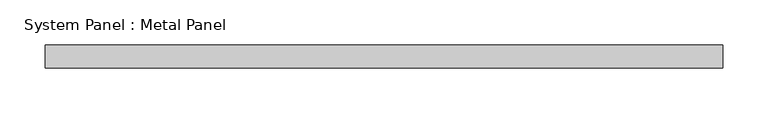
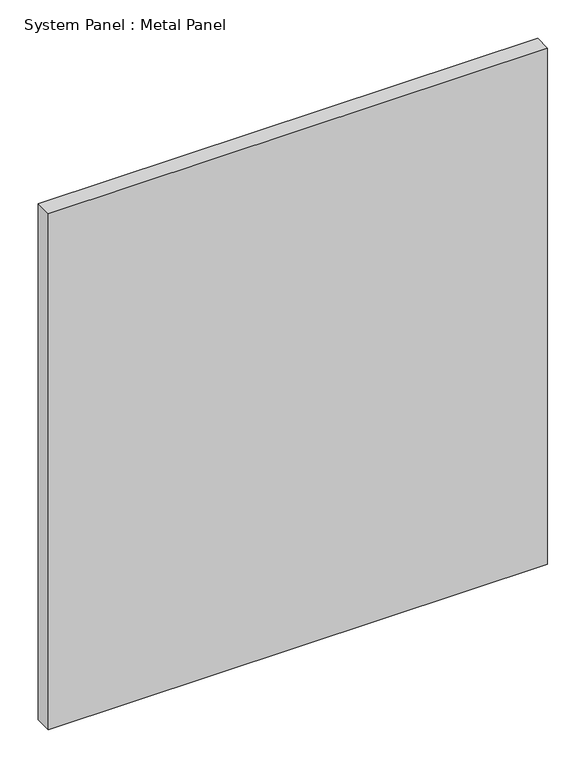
"""IFC4 building model written with IfcOpenShell, lengths in millimetres: plate geometry, System Panel : Metal Panel."""

from ifc_helpers import new_model, si_unit, origin, origin_with_axes, place, context, project, spatial, polyline, outline, extrude, source, transform, mapped, element, save


def system_panel_metal_panel_e2dbf0ce(model_context):
    return source(origin(), model_context, "Body", "SweptSolid", [
        extrude(outline(polyline([(375.1494819, 19.05), (-375.1494819, 19.05), (-375.1494819, 44.45), (375.1494819, 44.45), (375.1494819, 19.05)])), origin_with_axes(), (0.0, 0.0, 1.0), 819.15),
    ])


if __name__ == "__main__":
    model = new_model("IFC4")
    model_context = context("Model", 3, world=origin())
    ifc_project = project(units=[si_unit("LENGTHUNIT", "METRE", prefix="MILLI")], contexts=[model_context])
    site = spatial("IfcSite", under=ifc_project)
    building = spatial("IfcBuilding", under=site)
    placement = place(None, origin())
    system_panel_metal_panel_shape = system_panel_metal_panel_e2dbf0ce(model_context)
    element("IfcPlate", 1, ObjectType="System Panel : Metal Panel", at=placement, inside=building, context=model_context, shape_type="MappedRepresentation", body=[
        mapped(system_panel_metal_panel_shape, transform((0.0, 0.0, 0.0), x_axis=(1.0, 0.0, 0.0), y_axis=(0.0, 1.0, 0.0), z_axis=(0.0, 0.0, 1.0))),
    ])
    save(model, "model.ifc")
